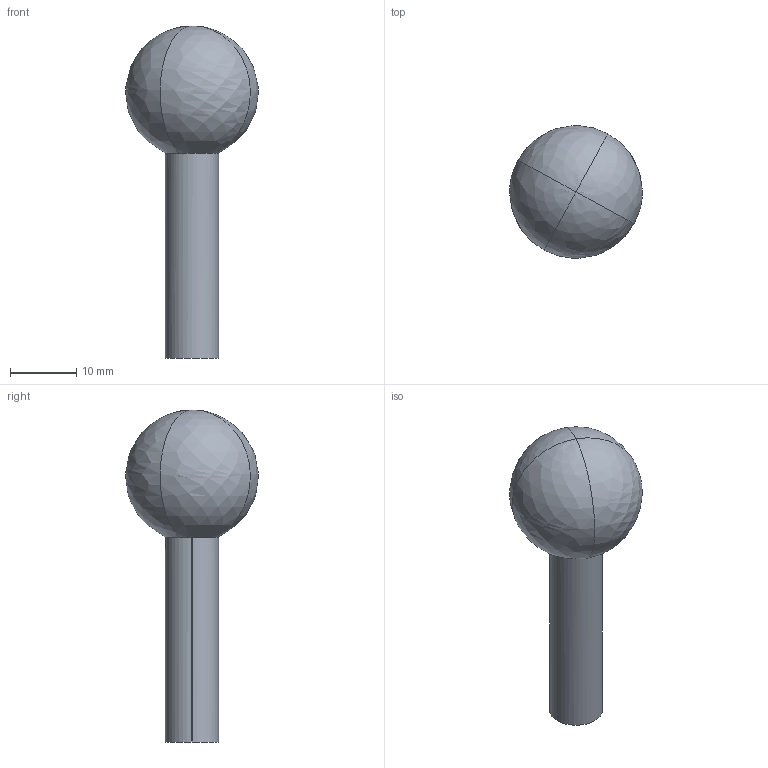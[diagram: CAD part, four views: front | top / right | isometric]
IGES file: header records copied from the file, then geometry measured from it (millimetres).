
Start section: START RECORD GO HERE.
Global section: file name: S20GF_1.igs; native system: DASSAULT SYSTEMES CATIA V5 R20 - www.3ds.com; preprocessor: CATIA Version 5 Release 20 ; author: Utente; organization: NB04-ASUS; date: 20211117.182739; units: millimetre
Bounding box: 19.99 x 19.98 x 50 mm (x, y, z)
Surface area: 2029.4 mm2 (no closed solid volume)
Topology: 0 solids, 0 shells, 7 faces, 32 edges, 28 vertices
Faces by surface type: revolution 6, plane 1
